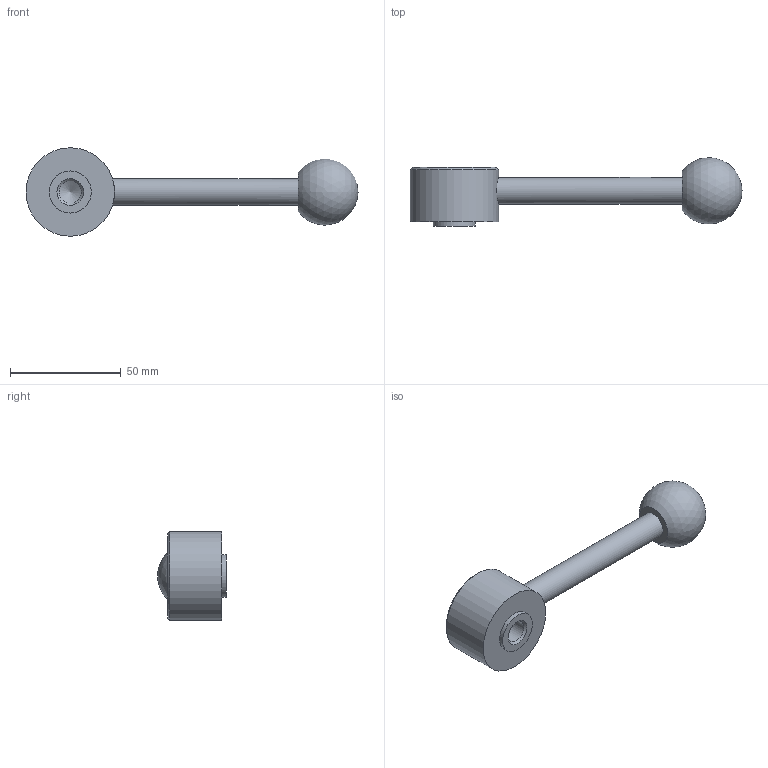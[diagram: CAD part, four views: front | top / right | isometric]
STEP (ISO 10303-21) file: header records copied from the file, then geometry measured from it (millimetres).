
FILE_DESCRIPTION( ( 'STEP AP203' ), '1' );
FILE_NAME( 'C:/Temp/Ganter_Step_05_03_2020/data/2_1/gn_125/gn_125_mb/gn_125_mb_d/Flat Adjustable Lever GN 125-40-M12-D.stp', '2020-03-05T11:00:39', ( 'License CC BY-ND 4.0' ), ( 'CADENAS' ), ' ', 'PARTsolutions', ' ' );
FILE_SCHEMA( ( 'CONFIG_CONTROL_DESIGN' ) );
Length unit declared in the file: millimetre
Products named in the file (1): _Flat Adjustable Lever GN 125-40-M12-D
Bounding box: 150 x 30.89 x 40 mm (x, y, z)
Volume: 52836.4 mm3; surface area: 11912.1 mm2
Topology: 1 solids, 1 shells, 14 faces, 25 edges, 16 vertices
Faces by surface type: cylinder 5, plane 5, cone 3, sphere 1
Full cylindrical faces by diameter (mm): 10.106 x1, 12 x1, 19 x1, 28 x1, 40 x1
Entity records: 406 total; most frequent: CARTESIAN_POINT 126, DIRECTION 54, AXIS2_PLACEMENT_3D 27, EDGE_LOOP 26, ORIENTED_EDGE 26, FACE_OUTER_BOUND 19, VERTEX_POINT 15, ADVANCED_FACE 14
